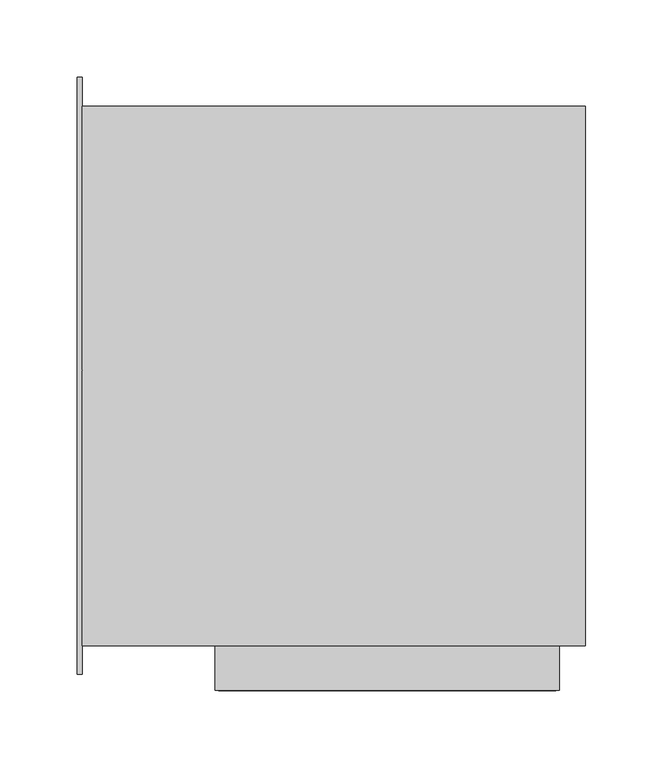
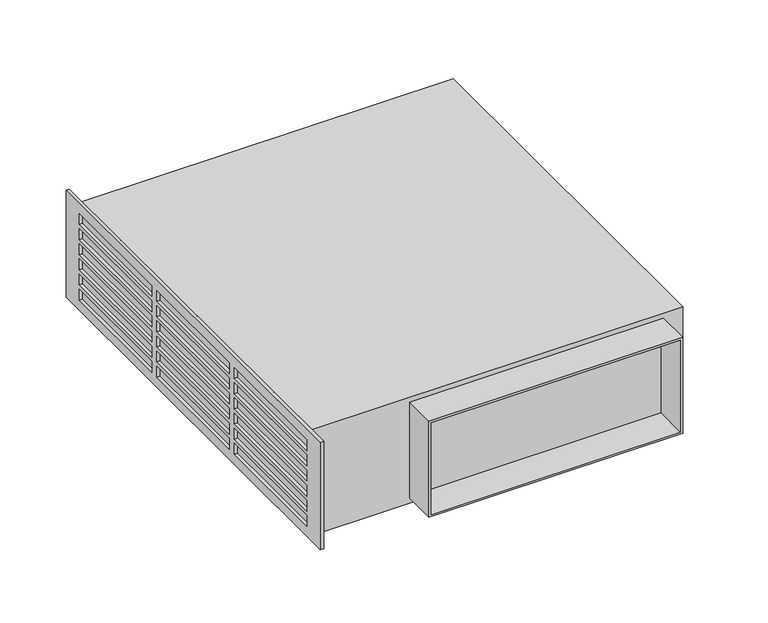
"""IFC4 building model written with IfcOpenShell, lengths in millimetres: proxy geometry, 11207310_D_DUU1000-2 : 28996403_D_11207310_DUU1000-2."""

from ifc_helpers import new_model, si_unit, frame, origin, place, context, project, spatial, polyline, outline, extrude, source, transform, mapped, element, save


def specialty_equipment_690cc349(model_context):
    return source(origin(), model_context, "Body", "SweptSolid", [
        extrude(outline(polyline([(-44.5, 311.0), (44.5, 311.0), (44.5, 89.0), (-44.5, 89.0), (-44.5, 311.0)]), holes=[polyline([(42.5, 309.0), (-42.5, 309.0), (-42.5, 91.0), (42.5, 91.0), (42.5, 309.0)])]), frame((0.0, -203.0, 0.0), z_axis=(0.0, 1.0, 0.0), x_axis=(0.0, 0.0, 1.0)), (0.0, 0.0, 1.0), 29.0),
        extrude(outline(polyline([(328.0, -174.0), (3.0, -174.0), (3.0, 174.0), (328.0, 174.0), (328.0, -174.0)])), frame((0.0, 0.0, -49.0), z_axis=(0.0, 0.0, 1.0), x_axis=(1.0, 0.0, 0.0)), (0.0, 0.0, 1.0), 98.0),
        extrude(outline(polyline([(-192.5, 49.5), (192.5, 49.5), (192.5, -49.5), (-192.5, -49.5), (-192.5, 49.5)]), holes=[polyline([(172.5, -30.0), (62.5, -30.0), (62.5, -40.0), (172.5, -40.0), (172.5, -30.0)]), polyline([(-172.5, 30.0), (-62.5, 30.0), (-62.5, 40.0), (-172.5, 40.0), (-172.5, 30.0)]), polyline([(62.5, 40.0), (62.5, 30.0), (172.5, 30.0), (172.5, 40.0), (62.5, 40.0)]), polyline([(-62.5, -40.0), (-62.5, -30.0), (-172.5, -30.0), (-172.5, -40.0), (-62.5, -40.0)]), polyline([(62.5, 26.0), (62.5, 16.0), (172.5, 16.0), (172.5, 26.0), (62.5, 26.0)]), polyline([(62.5, 12.0), (62.5, 2.0), (172.5, 2.0), (172.5, 12.0), (62.5, 12.0)]), polyline([(62.5, -2.0), (62.5, -12.0), (172.5, -12.0), (172.5, -2.0), (62.5, -2.0)]), polyline([(62.5, -16.0), (62.5, -26.0), (172.5, -26.0), (172.5, -16.0), (62.5, -16.0)]), polyline([(55.0, -30.0), (-55.0, -30.0), (-55.0, -40.0), (55.0, -40.0), (55.0, -30.0)]), polyline([(55.0, -16.0), (-55.0, -16.0), (-55.0, -26.0), (55.0, -26.0), (55.0, -16.0)]), polyline([(55.0, -2.0), (-55.0, -2.0), (-55.0, -12.0), (55.0, -12.0), (55.0, -2.0)]), polyline([(55.0, 12.0), (-55.0, 12.0), (-55.0, 2.0), (55.0, 2.0), (55.0, 12.0)]), polyline([(55.0, 26.0), (-55.0, 26.0), (-55.0, 16.0), (55.0, 16.0), (55.0, 26.0)]), polyline([(55.0, 40.0), (-55.0, 40.0), (-55.0, 30.0), (55.0, 30.0), (55.0, 40.0)]), polyline([(-62.5, 26.0), (-172.5, 26.0), (-172.5, 16.0), (-62.5, 16.0), (-62.5, 26.0)]), polyline([(-62.5, 12.0), (-172.5, 12.0), (-172.5, 2.0), (-62.5, 2.0), (-62.5, 12.0)]), polyline([(-62.5, -2.0), (-172.5, -2.0), (-172.5, -12.0), (-62.5, -12.0), (-62.5, -2.0)]), polyline([(-62.5, -16.0), (-172.5, -16.0), (-172.5, -26.0), (-62.5, -26.0), (-62.5, -16.0)])]), frame((0.0, 0.0, 0.0), z_axis=(1.0, 0.0, 0.0), x_axis=(0.0, 1.0, 0.0)), (0.0, 0.0, 1.0), 3.0),
    ])


if __name__ == "__main__":
    model = new_model("IFC4")
    model_context = context("Model", 3, world=origin())
    ifc_project = project(units=[si_unit("LENGTHUNIT", "METRE", prefix="MILLI")], contexts=[model_context])
    site = spatial("IfcSite", under=ifc_project)
    building = spatial("IfcBuilding", under=site)
    placement = place(None, origin())
    specialty_equipment_shape = specialty_equipment_690cc349(model_context)
    element("IfcBuildingElementProxy", 1, Name="11207310_D_DUU1000-2 : 28996403_D_11207310_DUU1000-2", ObjectType="11207310_D_DUU1000-2 : 28996403_D_11207310_DUU1000-2", at=placement, inside=building, context=model_context, shape_type="MappedRepresentation", body=[
        mapped(specialty_equipment_shape, transform((0.0, 0.0, 0.0), x_axis=(1.0, 0.0, 0.0), y_axis=(0.0, 1.0, 0.0), z_axis=(0.0, 0.0, 1.0))),
    ])
    save(model, "model.ifc")
